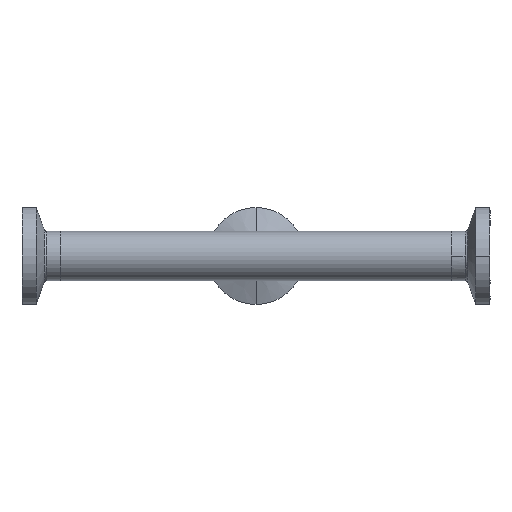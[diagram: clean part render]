
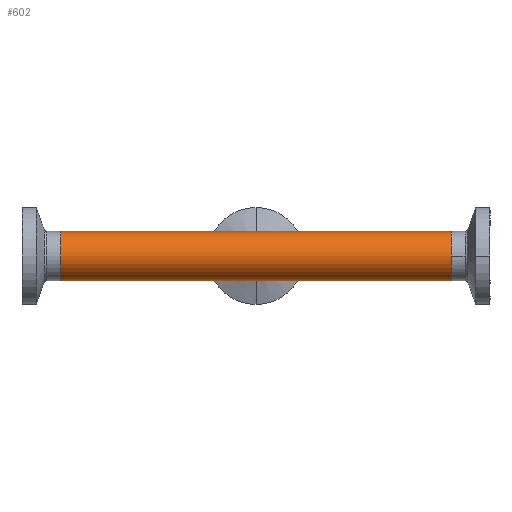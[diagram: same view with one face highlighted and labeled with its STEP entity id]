
A CAD part, front view. The second image highlights one B-rep face of the part: STEP entity #602.
In plain terms, the highlighted cylindrical face has radius 6.35 mm (diameter 12.7 mm), a partial arc.
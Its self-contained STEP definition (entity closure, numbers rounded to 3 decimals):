
#94 = CYLINDRICAL_SURFACE ( 'NONE', #2133, 6.35 ) ;
#210 = CARTESIAN_POINT ( 'NONE',  ( -50.3, 0., -6.35 ) ) ;
#420 = CARTESIAN_POINT ( 'NONE',  ( 68.261, 0., -6.35 ) ) ;
#432 = CARTESIAN_POINT ( 'NONE',  ( 68.261, 0., 6.35 ) ) ;
#513 = VECTOR ( 'NONE', #935, 1000. ) ;
#519 = VERTEX_POINT ( 'NONE', #1714 ) ;
#602 = ADVANCED_FACE ( 'NONE', ( #726 ), #94, .T. ) ;
#689 = DIRECTION ( 'NONE',  ( -1., 0., 0. ) ) ;
#726 = FACE_OUTER_BOUND ( 'NONE', #1939, .T. ) ;
#743 = VERTEX_POINT ( 'NONE', #2034 ) ;
#792 = ORIENTED_EDGE ( 'NONE', *, *, #893, .T. ) ;
#893 = EDGE_CURVE ( 'NONE', #743, #519, #2717, .T. ) ;
#903 = DIRECTION ( 'NONE',  ( -1., 0., 0. ) ) ;
#935 = DIRECTION ( 'NONE',  ( -1., 0., 0. ) ) ;
#1069 = AXIS2_PLACEMENT_3D ( 'NONE', #2279, #1660, #1202 ) ;
#1183 = DIRECTION ( 'NONE',  ( 0., 0., 1. ) ) ;
#1202 = DIRECTION ( 'NONE',  ( 0., 0., 1. ) ) ;
#1228 = EDGE_CURVE ( 'NONE', #2290, #1438, #1682, .T. ) ;
#1438 = VERTEX_POINT ( 'NONE', #210 ) ;
#1537 = EDGE_CURVE ( 'NONE', #519, #1438, #1590, .T. ) ;
#1557 = CARTESIAN_POINT ( 'NONE',  ( 68.261, 0., 0. ) ) ;
#1590 = CIRCLE ( 'NONE', #1069, 6.35 ) ;
#1660 = DIRECTION ( 'NONE',  ( 1., 0., 0. ) ) ;
#1682 = LINE ( 'NONE', #420, #513 ) ;
#1714 = CARTESIAN_POINT ( 'NONE',  ( -50.3, 0., 6.35 ) ) ;
#1939 = EDGE_LOOP ( 'NONE', ( #2592, #2718, #792, #2747 ) ) ;
#2034 = CARTESIAN_POINT ( 'NONE',  ( 50.3, 0., 6.35 ) ) ;
#2117 = EDGE_CURVE ( 'NONE', #2290, #743, #2614, .T. ) ;
#2133 = AXIS2_PLACEMENT_3D ( 'NONE', #1557, #2453, #1183 ) ;
#2152 = VECTOR ( 'NONE', #689, 1000. ) ;
#2204 = CARTESIAN_POINT ( 'NONE',  ( 50.3, 0., 0. ) ) ;
#2208 = CARTESIAN_POINT ( 'NONE',  ( 50.3, 0., -6.35 ) ) ;
#2279 = CARTESIAN_POINT ( 'NONE',  ( -50.3, 0., 0. ) ) ;
#2290 = VERTEX_POINT ( 'NONE', #2208 ) ;
#2432 = DIRECTION ( 'NONE',  ( 0., 0., 1. ) ) ;
#2453 = DIRECTION ( 'NONE',  ( -1., 0., 0. ) ) ;
#2592 = ORIENTED_EDGE ( 'NONE', *, *, #1228, .F. ) ;
#2599 = AXIS2_PLACEMENT_3D ( 'NONE', #2204, #903, #2432 ) ;
#2614 = CIRCLE ( 'NONE', #2599, 6.35 ) ;
#2717 = LINE ( 'NONE', #432, #2152 ) ;
#2718 = ORIENTED_EDGE ( 'NONE', *, *, #2117, .T. ) ;
#2747 = ORIENTED_EDGE ( 'NONE', *, *, #1537, .T. ) ;
